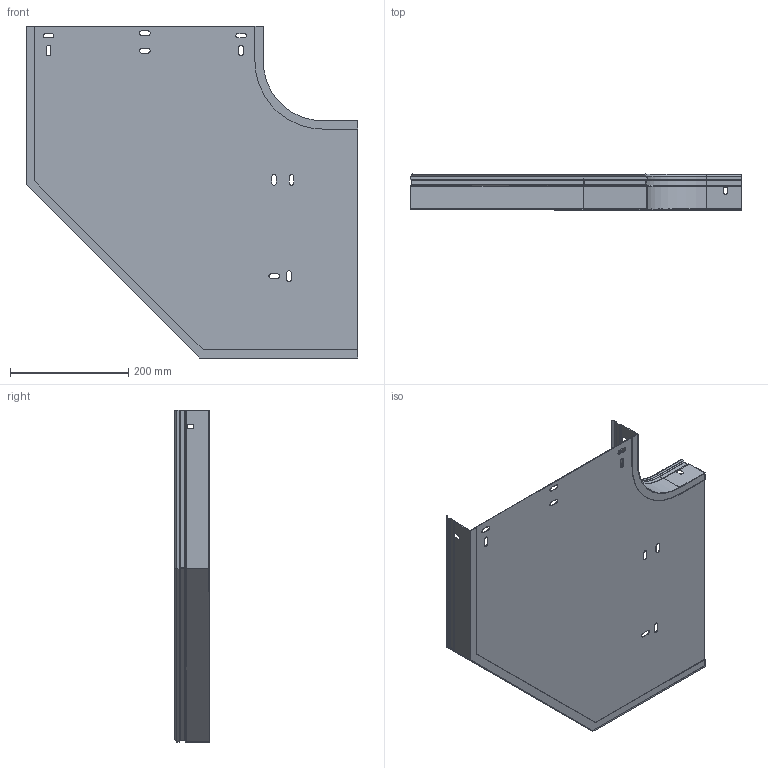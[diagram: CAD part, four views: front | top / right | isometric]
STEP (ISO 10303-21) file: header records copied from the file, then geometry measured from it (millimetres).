
FILE_DESCRIPTION (( 'STEP AP203' ), '1' );
FILE_NAME ('ERE_CPERC 400x60.step', '2023-07-27T18:48:13', ( '' ), ( '' ), 'SwSTEP 2.0', 'SolidWorks 2022', '' );
FILE_SCHEMA (( 'CONFIG_CONTROL_DESIGN' ));
Length unit declared in the file: millimetre
Products named in the file (4): ERE_LATERAL EXT CP_400 x 60; ERE_LATERAL INT CP_60; ERE_CPERC 400x60; ERE_BASE CP_400
Assembly tree (3 placements, depth 2):
  ERE_CPERC 400x60
    ERE_BASE CP_400
    ERE_LATERAL INT CP_60
    ERE_LATERAL EXT CP_400 x 60
Bounding box: 560.74 x 60 x 560.74 mm (x, y, z)
Volume: 338305.7 mm3; surface area: 681976.5 mm2
Topology: 3 solids, 3 shells, 163 faces, 423 edges, 266 vertices
Faces by surface type: plane 115, cylinder 41, cone 7
Entity records: 5367 total; most frequent: CARTESIAN_POINT 858, ORIENTED_EDGE 846, DIRECTION 845, EDGE_CURVE 423, LINE 339, VECTOR 339, VERTEX_POINT 266, AXIS2_PLACEMENT_3D 253
